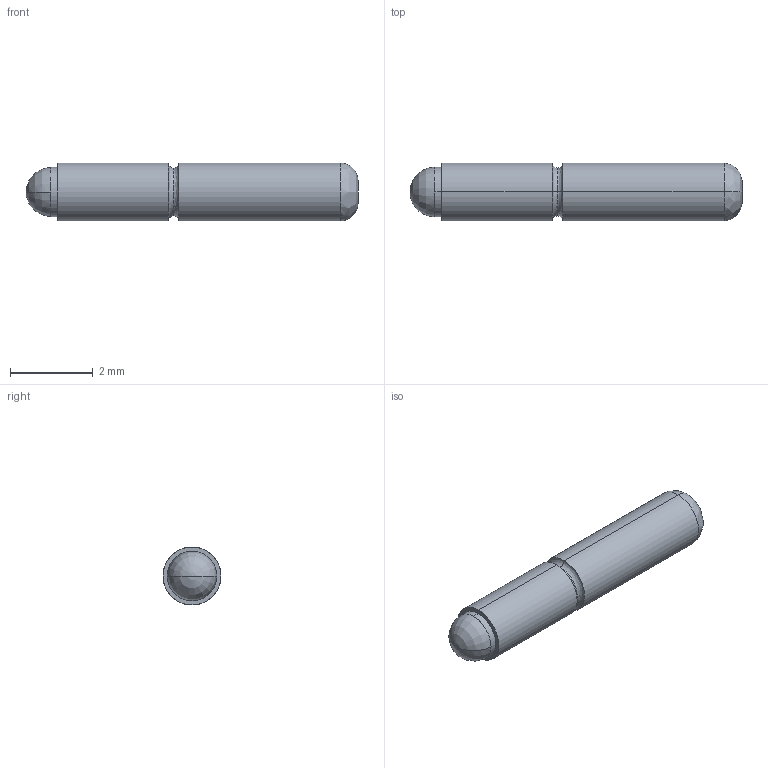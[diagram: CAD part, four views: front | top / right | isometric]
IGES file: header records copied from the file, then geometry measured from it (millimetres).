
Start section: SolidWorks IGES file using analytic representation for surfaces
Global section: file name: Z:\probe solid model mockups\Solidworks models\IGES Files\HPA-64\HPA-64-10 RECD.IGS; native system: SolidWorks 2006 by SolidWorks Corporation; preprocessor: SolidWorks 2006 by SolidWorks Corporation; author: tsakatani; date: 071220.100051; units: inch
Bounding box: 8 x 1.4 x 1.4 mm (x, y, z)
Surface area: 36.1 mm2 (no closed solid volume)
Topology: 0 solids, 0 shells, 16 faces, 108 edges, 106 vertices
Faces by surface type: bspline 8, revolution 8
